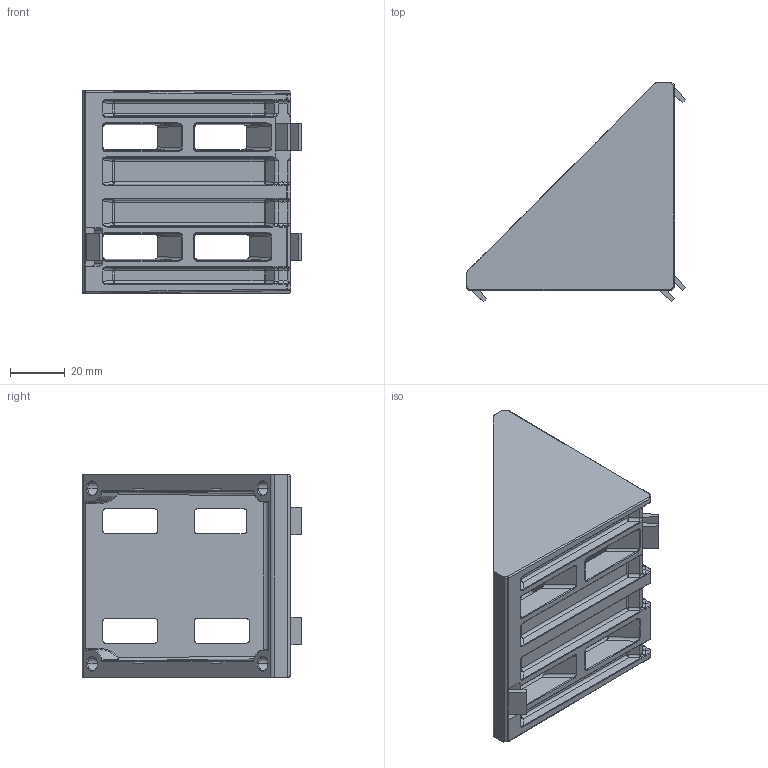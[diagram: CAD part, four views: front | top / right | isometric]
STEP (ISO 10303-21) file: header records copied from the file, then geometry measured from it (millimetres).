
FILE_DESCRIPTION(('STEP AP242'),'1');
FILE_NAME('fath_093w806n10.stp','2021-03-30T06:10:13',('TraceParts'),('TraceParts S.A.'),'Spatial InterOp 3D',' ',' ');
FILE_SCHEMA(('AP242_MANAGED_MODEL_BASED_3D_ENGINEERING_MIM_LF {1 0 10303 442 1 1 4}'));
Length unit declared in the file: millimetre
Products named in the file (1): fath_093w806n10
Bounding box: 79.98 x 79.98 x 74 mm (x, y, z)
Volume: 80946.6 mm3; surface area: 37483.6 mm2
Topology: 1 solids, 1 shells, 696 faces, 1680 edges, 967 vertices
Faces by surface type: cylinder 271, bspline 199, plane 152, sphere 42, cone 28, torus 4
Entity records: 23261 total; most frequent: CARTESIAN_POINT 8994, ORIENTED_EDGE 3312, DIRECTION 2664, EDGE_CURVE 1656, AXIS2_PLACEMENT_3D 987, VERTEX_POINT 967, EDGE_LOOP 717, ADVANCED_FACE 696
